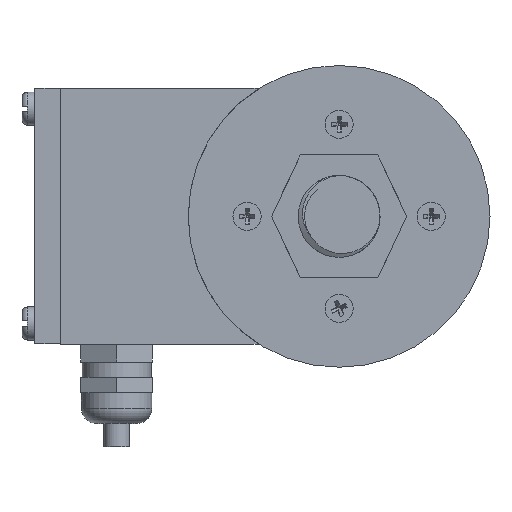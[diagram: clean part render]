
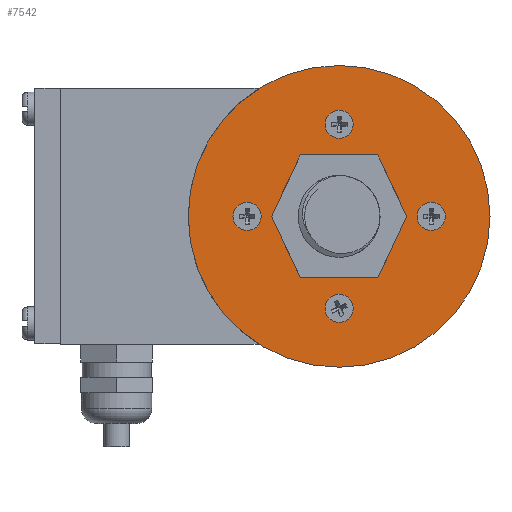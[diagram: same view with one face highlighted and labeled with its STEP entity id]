
A CAD part, front view. The second image highlights one B-rep face of the part: STEP entity #7542.
In plain terms, the highlighted planar face has unit normal (0, -1, 0).
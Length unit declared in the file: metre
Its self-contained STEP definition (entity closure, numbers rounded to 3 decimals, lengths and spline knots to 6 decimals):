
#541 = CARTESIAN_POINT ( 'NONE',  ( -0.02973, 0.003431, 0.005 ) ) ;
#595 = CARTESIAN_POINT ( 'NONE',  ( -0.02973, 0.003431, 0.0105 ) ) ;
#671 = CARTESIAN_POINT ( 'NONE',  ( -0.01173, 0.003431, 0.00775 ) ) ;
#672 = DIRECTION ( 'NONE',  ( 0., -1., 0. ) ) ;
#673 = DIRECTION ( 'NONE',  ( 0., 0., -1. ) ) ;
#685 = CARTESIAN_POINT ( 'NONE',  ( -0.01173, 0.003431, 0.00775 ) ) ;
#686 = DIRECTION ( 'NONE',  ( 0., -1., 0. ) ) ;
#687 = DIRECTION ( 'NONE',  ( 0., 0., 1. ) ) ;
#784 = CARTESIAN_POINT ( 'NONE',  ( -0.02973, 0.003431, 0.00775 ) ) ;
#785 = DIRECTION ( 'NONE',  ( 0., 1., 0. ) ) ;
#786 = DIRECTION ( 'NONE',  ( 0., 0., 1. ) ) ;
#981 = CARTESIAN_POINT ( 'NONE',  ( 0.00627, 0.003431, 0.00775 ) ) ;
#982 = DIRECTION ( 'NONE',  ( 0., 1., 0. ) ) ;
#983 = DIRECTION ( 'NONE',  ( 0., 0., 1. ) ) ;
#990 = CARTESIAN_POINT ( 'NONE',  ( -0.01173, 0.003431, 0.00775 ) ) ;
#991 = DIRECTION ( 'NONE',  ( 0., -1., 0. ) ) ;
#992 = DIRECTION ( 'NONE',  ( 0., 0., -1. ) ) ;
#1036 = CARTESIAN_POINT ( 'NONE',  ( -0.01173, 0.003431, -0.01025 ) ) ;
#1037 = DIRECTION ( 'NONE',  ( 0., 1., 0. ) ) ;
#1038 = DIRECTION ( 'NONE',  ( 0., 0., 1. ) ) ;
#1041 = CARTESIAN_POINT ( 'NONE',  ( -0.02973, 0.003431, 0.00775 ) ) ;
#1042 = DIRECTION ( 'NONE',  ( 0., 1., 0. ) ) ;
#1043 = DIRECTION ( 'NONE',  ( 0., 0., 1. ) ) ;
#1106 = CARTESIAN_POINT ( 'NONE',  ( -0.01173, 0.003431, 0.00775 ) ) ;
#1107 = DIRECTION ( 'NONE',  ( 0., -1., 0. ) ) ;
#1108 = DIRECTION ( 'NONE',  ( 0., 0., 1. ) ) ;
#1125 = CARTESIAN_POINT ( 'NONE',  ( 0.00627, 0.003431, 0.00775 ) ) ;
#1126 = DIRECTION ( 'NONE',  ( 0., 1., 0. ) ) ;
#1127 = DIRECTION ( 'NONE',  ( 0., 0., 1. ) ) ;
#1327 = CARTESIAN_POINT ( 'NONE',  ( -0.01173, 0.003431, 0.02575 ) ) ;
#1328 = DIRECTION ( 'NONE',  ( 0., -1., 0. ) ) ;
#1329 = DIRECTION ( 'NONE',  ( 0., 0., 1. ) ) ;
#1760 = CIRCLE ( 'NONE', #7247, 0.00275 ) ;
#2137 = CARTESIAN_POINT ( 'NONE',  ( -0.01173, 0.003431, 0.02575 ) ) ;
#2138 = DIRECTION ( 'NONE',  ( 0., -1., 0. ) ) ;
#2139 = DIRECTION ( 'NONE',  ( 0., 0., 1. ) ) ;
#2793 = ORIENTED_EDGE ( 'NONE', *, *, #9781, .T. ) ;
#2799 = ORIENTED_EDGE ( 'NONE', *, *, #9808, .T. ) ;
#3009 = VERTEX_POINT ( 'NONE', #7001 ) ;
#3030 = VERTEX_POINT ( 'NONE', #4467 ) ;
#3052 = VERTEX_POINT ( 'NONE', #4508 ) ;
#3143 = VERTEX_POINT ( 'NONE', #4667 ) ;
#3184 = VERTEX_POINT ( 'NONE', #4724 ) ;
#3230 = VERTEX_POINT ( 'NONE', #4802 ) ;
#3254 = VERTEX_POINT ( 'NONE', #4848 ) ;
#3297 = VERTEX_POINT ( 'NONE', #4930 ) ;
#3314 = VERTEX_POINT ( 'NONE', #4945 ) ;
#3334 = VERTEX_POINT ( 'NONE', #4965 ) ;
#3839 = CIRCLE ( 'NONE', #9193, 0.00275 ) ;
#3914 = FACE_BOUND ( 'NONE', #10551, .T. ) ;
#3915 = FACE_BOUND ( 'NONE', #8749, .T. ) ;
#4467 = CARTESIAN_POINT ( 'NONE',  ( 0.00627, 0.003431, 0.005 ) ) ;
#4508 = CARTESIAN_POINT ( 'NONE',  ( -0.01173, 0.003431, 0.0285 ) ) ;
#4667 = CARTESIAN_POINT ( 'NONE',  ( -0.01173, 0.003431, 0.03725 ) ) ;
#4724 = CARTESIAN_POINT ( 'NONE',  ( -0.01173, 0.003431, -0.013 ) ) ;
#4802 = CARTESIAN_POINT ( 'NONE',  ( -0.01173, 0.003431, -0.0075 ) ) ;
#4848 = CARTESIAN_POINT ( 'NONE',  ( -0.01173, 0.003431, -0.02175 ) ) ;
#4930 = CARTESIAN_POINT ( 'NONE',  ( 0.00627, 0.003431, 0.0105 ) ) ;
#4945 = CARTESIAN_POINT ( 'NONE',  ( -0.01173, 0.003431, 0.01975 ) ) ;
#4965 = CARTESIAN_POINT ( 'NONE',  ( -0.01173, 0.003431, 0.023 ) ) ;
#5168 = CARTESIAN_POINT ( 'NONE',  ( -0.01173, 0.003431, -0.01025 ) ) ;
#5169 = DIRECTION ( 'NONE',  ( 0., 1., 0. ) ) ;
#5170 = DIRECTION ( 'NONE',  ( 0., 0., 1. ) ) ;
#5914 = AXIS2_PLACEMENT_3D ( 'NONE', #671, #672, #673 ) ;
#5917 = AXIS2_PLACEMENT_3D ( 'NONE', #685, #686, #687 ) ;
#5928 = AXIS2_PLACEMENT_3D ( 'NONE', #784, #785, #786 ) ;
#5932 = AXIS2_PLACEMENT_3D ( 'NONE', #981, #982, #983 ) ;
#7001 = CARTESIAN_POINT ( 'NONE',  ( -0.01173, 0.003431, -0.00425 ) ) ;
#7059 = EDGE_CURVE ( 'NONE', #3184, #3230, #3839, .T. ) ;
#7208 = AXIS2_PLACEMENT_3D ( 'NONE', #990, #991, #992 ) ;
#7210 = AXIS2_PLACEMENT_3D ( 'NONE', #1036, #1037, #1038 ) ;
#7211 = AXIS2_PLACEMENT_3D ( 'NONE', #1041, #1042, #1043 ) ;
#7212 = AXIS2_PLACEMENT_3D ( 'NONE', #1106, #1107, #1108 ) ;
#7213 = AXIS2_PLACEMENT_3D ( 'NONE', #1125, #1126, #1127 ) ;
#7221 = AXIS2_PLACEMENT_3D ( 'NONE', #1327, #1328, #1329 ) ;
#7247 = AXIS2_PLACEMENT_3D ( 'NONE', #2137, #2138, #2139 ) ;
#7340 = ORIENTED_EDGE ( 'NONE', *, *, #9778, .T. ) ;
#7346 = ORIENTED_EDGE ( 'NONE', *, *, #9747, .T. ) ;
#7353 = ORIENTED_EDGE ( 'NONE', *, *, #9105, .F. ) ;
#7364 = ORIENTED_EDGE ( 'NONE', *, *, #7059, .T. ) ;
#7396 = ORIENTED_EDGE ( 'NONE', *, *, #9804, .F. ) ;
#7429 = ORIENTED_EDGE ( 'NONE', *, *, #10315, .F. ) ;
#7542 = ADVANCED_FACE ( 'NONE', ( #3914, #11872, #3915, #11871, #11870, #11873 ), #11219, .F. ) ;
#7667 = ORIENTED_EDGE ( 'NONE', *, *, #10424, .F. ) ;
#7818 = ORIENTED_EDGE ( 'NONE', *, *, #9098, .T. ) ;
#8143 = ORIENTED_EDGE ( 'NONE', *, *, #9793, .T. ) ;
#8166 = ORIENTED_EDGE ( 'NONE', *, *, #9794, .T. ) ;
#8203 = VERTEX_POINT ( 'NONE', #541 ) ;
#8275 = VERTEX_POINT ( 'NONE', #595 ) ;
#8727 = EDGE_LOOP ( 'NONE', ( #8143, #7364 ) ) ;
#8743 = EDGE_LOOP ( 'NONE', ( #7353, #7396 ) ) ;
#8749 = EDGE_LOOP ( 'NONE', ( #7340, #2799 ) ) ;
#8760 = EDGE_LOOP ( 'NONE', ( #2793, #7818 ) ) ;
#9098 = EDGE_CURVE ( 'NONE', #3143, #3254, #12319, .T. ) ;
#9105 = EDGE_CURVE ( 'NONE', #3314, #3009, #12333, .T. ) ;
#9193 = AXIS2_PLACEMENT_3D ( 'NONE', #5168, #5169, #5170 ) ;
#9231 = AXIS2_PLACEMENT_3D ( 'NONE', #11239, #11240, #11241 ) ;
#9747 = EDGE_CURVE ( 'NONE', #8275, #8203, #12358, .T. ) ;
#9778 = EDGE_CURVE ( 'NONE', #3297, #3030, #12393, .T. ) ;
#9781 = EDGE_CURVE ( 'NONE', #3254, #3143, #12395, .T. ) ;
#9793 = EDGE_CURVE ( 'NONE', #3230, #3184, #12411, .T. ) ;
#9794 = EDGE_CURVE ( 'NONE', #8203, #8275, #12416, .T. ) ;
#9804 = EDGE_CURVE ( 'NONE', #3009, #3314, #12426, .T. ) ;
#9808 = EDGE_CURVE ( 'NONE', #3030, #3297, #12415, .T. ) ;
#10315 = EDGE_CURVE ( 'NONE', #3334, #3052, #12497, .T. ) ;
#10424 = EDGE_CURVE ( 'NONE', #3052, #3334, #1760, .T. ) ;
#10550 = EDGE_LOOP ( 'NONE', ( #7346, #8166 ) ) ;
#10551 = EDGE_LOOP ( 'NONE', ( #7667, #7429 ) ) ;
#11219 = PLANE ( 'NONE',  #9231 ) ;
#11239 = CARTESIAN_POINT ( 'NONE',  ( -0.04123, 0.003431, 0.00775 ) ) ;
#11240 = DIRECTION ( 'NONE',  ( 0., 1., 0. ) ) ;
#11241 = DIRECTION ( 'NONE',  ( 0., 0., 1. ) ) ;
#11870 = FACE_OUTER_BOUND ( 'NONE', #8760, .T. ) ;
#11871 = FACE_BOUND ( 'NONE', #8727, .T. ) ;
#11872 = FACE_BOUND ( 'NONE', #10550, .T. ) ;
#11873 = FACE_BOUND ( 'NONE', #8743, .T. ) ;
#12319 = CIRCLE ( 'NONE', #5914, 0.0295 ) ;
#12333 = CIRCLE ( 'NONE', #5917, 0.012 ) ;
#12358 = CIRCLE ( 'NONE', #5928, 0.00275 ) ;
#12393 = CIRCLE ( 'NONE', #5932, 0.00275 ) ;
#12395 = CIRCLE ( 'NONE', #7208, 0.0295 ) ;
#12411 = CIRCLE ( 'NONE', #7210, 0.00275 ) ;
#12415 = CIRCLE ( 'NONE', #7213, 0.00275 ) ;
#12416 = CIRCLE ( 'NONE', #7211, 0.00275 ) ;
#12426 = CIRCLE ( 'NONE', #7212, 0.012 ) ;
#12497 = CIRCLE ( 'NONE', #7221, 0.00275 ) ;
